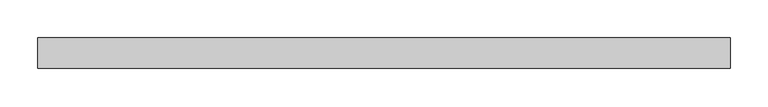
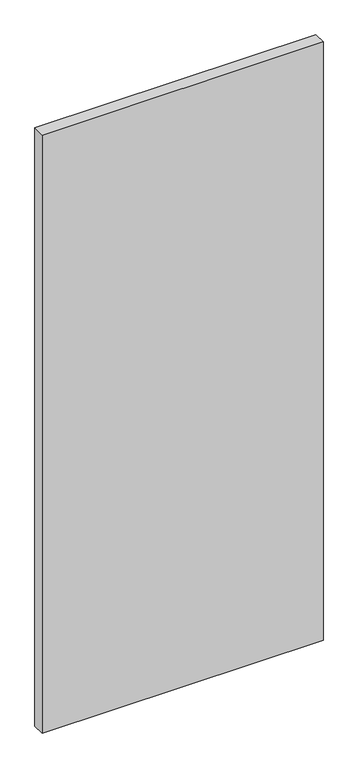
"""IFC4 building model written with IfcOpenShell, lengths in millimetres: plate geometry, Panneau système : Vitre 4cm."""

from ifc_helpers import new_model, si_unit, origin, origin_with_axes, place, context, project, spatial, polyline, outline, extrude, source, transform, mapped, element, save


def plate_218a902c(model_context):
    return source(origin(), model_context, "Body", "SweptSolid", [
        extrude(outline(polyline([(455.5778041, -20.0), (-455.5778041, -20.0), (-455.5778041, 20.0), (455.5778041, 20.0), (455.5778041, -20.0)])), origin_with_axes(), (0.0, 0.0, 1.0), 2050.0),
    ])


if __name__ == "__main__":
    model = new_model("IFC4")
    model_context = context("Model", 3, world=origin())
    ifc_project = project(units=[si_unit("LENGTHUNIT", "METRE", prefix="MILLI")], contexts=[model_context])
    site = spatial("IfcSite", under=ifc_project)
    building = spatial("IfcBuilding", under=site)
    placement = place(None, origin())
    plate_shape = plate_218a902c(model_context)
    element("IfcPlate", 1, ObjectType="Panneau système : Vitre 4cm", at=placement, inside=building, context=model_context, shape_type="MappedRepresentation", body=[
        mapped(plate_shape, transform((0.0, 0.0, 0.0), x_axis=(1.0, 0.0, 0.0), y_axis=(0.0, 1.0, 0.0), z_axis=(0.0, 0.0, 1.0))),
    ])
    save(model, "model.ifc")
